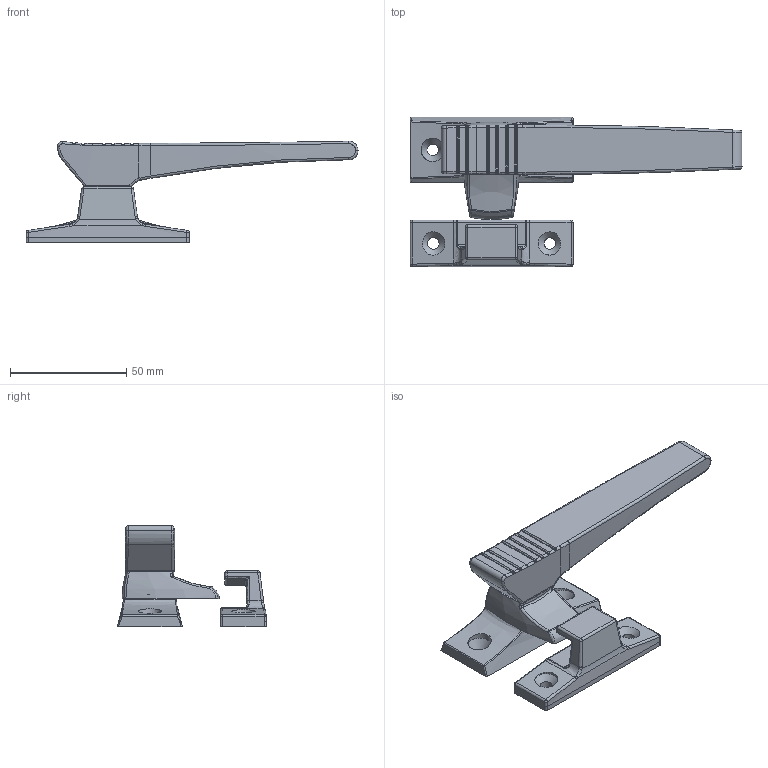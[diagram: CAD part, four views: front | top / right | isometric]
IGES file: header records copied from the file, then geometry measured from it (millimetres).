
Global section: file name: DR_D-1118-2; native system: Autodesk Inventor 2015; preprocessor: unknown; author: Administrator; date: 20170725.114802; units: millimetre
Bounding box: 142.5 x 64.17 x 43.53 mm (x, y, z)
Volume: 65547 mm3; surface area: 26392.7 mm2
Topology: 6 solids, 6 shells, 349 faces, 840 edges, 494 vertices
Faces by surface type: bspline 349
